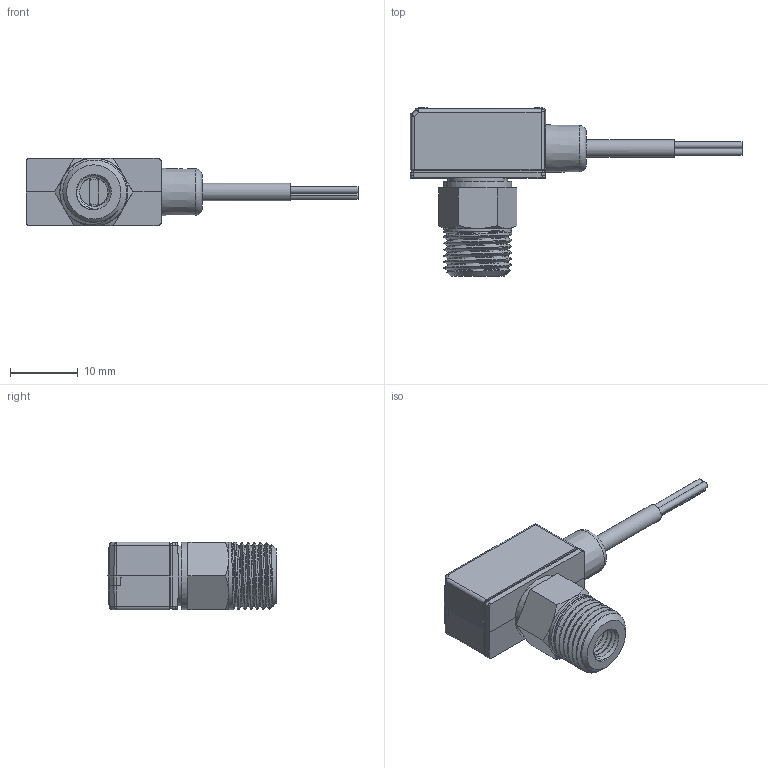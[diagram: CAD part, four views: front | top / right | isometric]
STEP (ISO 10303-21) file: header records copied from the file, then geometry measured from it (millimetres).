
FILE_DESCRIPTION(('STEP AP214'),'1');
FILE_NAME('82R-AG.stp','2026-04-16T02:49:10',(' '),(' '),'Spatial InterOp 3D',' ',' ');
FILE_SCHEMA(('AUTOMOTIVE_DESIGN { 1 0 10303 214 1 1 1 1 }'));
Length unit declared in the file: millimetre
Products named in the file (3): MPS-※82R-AG
Assembly tree (2 placements, depth 2):
  MPS-※82R-AG
    MPS-※82R-AG
    MPS-※82R-AG
Bounding box: 49 x 24.8 x 10 mm (x, y, z)
Volume: 127.1 mm3; surface area: 4139 mm2
Topology: 1 solids, 7 shells, 428 faces, 1237 edges, 824 vertices
Faces by surface type: plane 299, cylinder 64, cone 36, bspline 23, torus 3, sphere 3
Full cylindrical faces by diameter (mm): 1 x1, 2.6 x1, 2.7 x2, 4.6 x1, 4.7 x1, 5.05 x1, 5.985 x1, 6.2 x2, 7.15 x1, 9 x1, 10 x7
Entity records: 23200 total; most frequent: CARTESIAN_POINT 9218, ORIENTED_EDGE 2344, DIRECTION 1898, EDGE_CURVE 1183, VERTEX_POINT 804, LINE 796, VECTOR 796, AXIS2_PLACEMENT_3D 551
